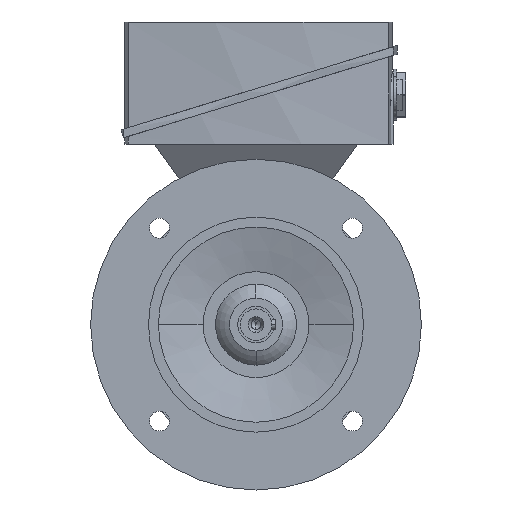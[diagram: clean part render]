
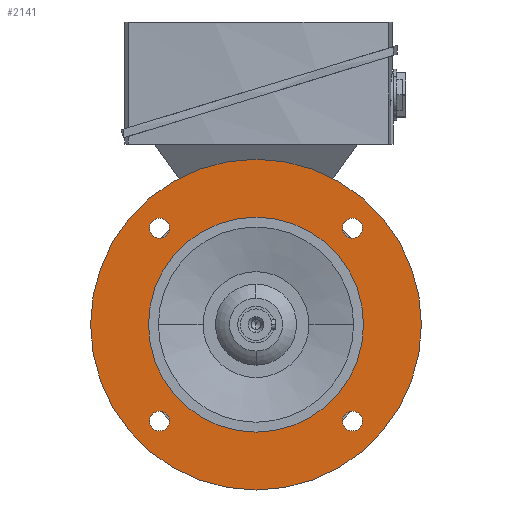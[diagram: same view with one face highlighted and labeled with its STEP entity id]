
A CAD part, left-side view. The second image highlights one B-rep face of the part: STEP entity #2141.
In plain terms, the highlighted planar face has unit normal (-1, 0, 0).
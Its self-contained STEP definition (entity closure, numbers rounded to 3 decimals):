
#2141=ADVANCED_FACE('',(#4335,#4336,#4337,#4338,#4339,#4340),#4341,.T.);
#4335=FACE_BOUND('',#6533,.T.);
#4336=FACE_BOUND('',#6534,.T.);
#4337=FACE_BOUND('',#6535,.T.);
#4338=FACE_BOUND('',#6536,.T.);
#4339=FACE_OUTER_BOUND('',#6537,.T.);
#4340=FACE_BOUND('',#6538,.T.);
#4341=PLANE('',#6539);
#6533=EDGE_LOOP('',(#13259,#13260));
#6534=EDGE_LOOP('',(#13261,#13262));
#6535=EDGE_LOOP('',(#13263,#13264));
#6536=EDGE_LOOP('',(#13265,#13266));
#6537=EDGE_LOOP('',(#13267,#13268));
#6538=EDGE_LOOP('',(#13269,#13270));
#6539=AXIS2_PLACEMENT_3D('',#13271,#13272,#13273);
#13259=ORIENTED_EDGE('',*,*,#15928,.T.);
#13260=ORIENTED_EDGE('',*,*,#13373,.T.);
#13261=ORIENTED_EDGE('',*,*,#15931,.T.);
#13262=ORIENTED_EDGE('',*,*,#13368,.T.);
#13263=ORIENTED_EDGE('',*,*,#15934,.T.);
#13264=ORIENTED_EDGE('',*,*,#13363,.T.);
#13265=ORIENTED_EDGE('',*,*,#15937,.T.);
#13266=ORIENTED_EDGE('',*,*,#13358,.T.);
#13267=ORIENTED_EDGE('',*,*,#13343,.F.);
#13268=ORIENTED_EDGE('',*,*,#15985,.F.);
#13269=ORIENTED_EDGE('',*,*,#13350,.T.);
#13270=ORIENTED_EDGE('',*,*,#15983,.T.);
#13271=CARTESIAN_POINT('',(-27.0,82.5,0.0));
#13272=DIRECTION('',(-1.0,0.0,0.0));
#13273=DIRECTION('',(0.0,-1.0,0.0));
#13343=EDGE_CURVE('',#16026,#16029,#16030,.T.);
#13350=EDGE_CURVE('',#16036,#16040,#16042,.T.);
#13358=EDGE_CURVE('',#16056,#16053,#16057,.T.);
#13363=EDGE_CURVE('',#16065,#16062,#16066,.T.);
#13368=EDGE_CURVE('',#16074,#16071,#16075,.T.);
#13373=EDGE_CURVE('',#16083,#16080,#16084,.T.);
#15928=EDGE_CURVE('',#16080,#16083,#19886,.T.);
#15931=EDGE_CURVE('',#16071,#16074,#19889,.T.);
#15934=EDGE_CURVE('',#16062,#16065,#19892,.T.);
#15937=EDGE_CURVE('',#16053,#16056,#19895,.T.);
#15983=EDGE_CURVE('',#16040,#16036,#19954,.T.);
#15985=EDGE_CURVE('',#16029,#16026,#19956,.T.);
#16026=VERTEX_POINT('',#20001);
#16029=VERTEX_POINT('',#20005);
#16030=CIRCLE('',#20006,100.0);
#16036=VERTEX_POINT('',#20013);
#16040=VERTEX_POINT('',#20018);
#16042=CIRCLE('',#20021,65.0);
#16053=VERTEX_POINT('',#20037);
#16056=VERTEX_POINT('',#20041);
#16057=CIRCLE('',#20042,6.0);
#16062=VERTEX_POINT('',#20048);
#16065=VERTEX_POINT('',#20052);
#16066=CIRCLE('',#20053,6.0);
#16071=VERTEX_POINT('',#20059);
#16074=VERTEX_POINT('',#20063);
#16075=CIRCLE('',#20064,6.0);
#16080=VERTEX_POINT('',#20070);
#16083=VERTEX_POINT('',#20074);
#16084=CIRCLE('',#20075,6.0);
#19886=CIRCLE('',#27232,6.0);
#19889=CIRCLE('',#27235,6.0);
#19892=CIRCLE('',#27238,6.0);
#19895=CIRCLE('',#27241,6.0);
#19954=CIRCLE('',#27343,65.0);
#19956=CIRCLE('',#27345,100.0);
#20001=CARTESIAN_POINT('',(-27.0,100.0,0.0));
#20005=CARTESIAN_POINT('',(-27.0,-100.0,0.));
#20006=AXIS2_PLACEMENT_3D('',#27389,#27390,#27391);
#20013=CARTESIAN_POINT('',(-27.0,65.0,0.0));
#20018=CARTESIAN_POINT('',(-27.0,-65.0,0.));
#20021=AXIS2_PLACEMENT_3D('',#27401,#27402,#27403);
#20037=CARTESIAN_POINT('',(-27.0,-62.579,62.579));
#20041=CARTESIAN_POINT('',(-27.0,-54.094,54.094));
#20042=AXIS2_PLACEMENT_3D('',#27414,#27415,#27416);
#20048=CARTESIAN_POINT('',(-27.0,62.579,62.579));
#20052=CARTESIAN_POINT('',(-27.0,54.094,54.094));
#20053=AXIS2_PLACEMENT_3D('',#27422,#27423,#27424);
#20059=CARTESIAN_POINT('',(-27.0,62.579,-62.579));
#20063=CARTESIAN_POINT('',(-27.0,54.094,-54.094));
#20064=AXIS2_PLACEMENT_3D('',#27430,#27431,#27432);
#20070=CARTESIAN_POINT('',(-27.0,-62.579,-62.579));
#20074=CARTESIAN_POINT('',(-27.0,-54.094,-54.094));
#20075=AXIS2_PLACEMENT_3D('',#27438,#27439,#27440);
#27232=AXIS2_PLACEMENT_3D('',#30154,#30155,#30156);
#27235=AXIS2_PLACEMENT_3D('',#30160,#30161,#30162);
#27238=AXIS2_PLACEMENT_3D('',#30166,#30167,#30168);
#27241=AXIS2_PLACEMENT_3D('',#30172,#30173,#30174);
#27343=AXIS2_PLACEMENT_3D('',#30211,#30212,#30213);
#27345=AXIS2_PLACEMENT_3D('',#30214,#30215,#30216);
#27389=CARTESIAN_POINT('',(-27.0,0.0,0.0));
#27390=DIRECTION('',(1.0,0.0,0.0));
#27391=DIRECTION('',(0.0,1.0,0.0));
#27401=CARTESIAN_POINT('',(-27.0,0.0,0.0));
#27402=DIRECTION('',(1.0,0.0,0.0));
#27403=DIRECTION('',(0.0,1.0,0.0));
#27414=CARTESIAN_POINT('',(-27.0,-58.336,58.336));
#27415=DIRECTION('',(1.0,0.0,-0.0));
#27416=DIRECTION('',(0.0,-0.707,0.707));
#27422=CARTESIAN_POINT('',(-27.0,58.336,58.336));
#27423=DIRECTION('',(1.0,0.0,-0.0));
#27424=DIRECTION('',(0.0,0.707,0.707));
#27430=CARTESIAN_POINT('',(-27.0,58.336,-58.336));
#27431=DIRECTION('',(1.0,-0.0,0.0));
#27432=DIRECTION('',(0.0,0.707,-0.707));
#27438=CARTESIAN_POINT('',(-27.0,-58.336,-58.336));
#27439=DIRECTION('',(1.0,0.0,0.0));
#27440=DIRECTION('',(0.0,-0.707,-0.707));
#30154=CARTESIAN_POINT('',(-27.0,-58.336,-58.336));
#30155=DIRECTION('',(1.0,0.0,0.0));
#30156=DIRECTION('',(0.0,-0.707,-0.707));
#30160=CARTESIAN_POINT('',(-27.0,58.336,-58.336));
#30161=DIRECTION('',(1.0,-0.0,0.0));
#30162=DIRECTION('',(0.0,0.707,-0.707));
#30166=CARTESIAN_POINT('',(-27.0,58.336,58.336));
#30167=DIRECTION('',(1.0,0.0,-0.0));
#30168=DIRECTION('',(0.0,0.707,0.707));
#30172=CARTESIAN_POINT('',(-27.0,-58.336,58.336));
#30173=DIRECTION('',(1.0,0.0,-0.0));
#30174=DIRECTION('',(0.0,-0.707,0.707));
#30211=CARTESIAN_POINT('',(-27.0,0.0,0.0));
#30212=DIRECTION('',(1.0,0.0,0.0));
#30213=DIRECTION('',(0.0,1.0,0.0));
#30214=CARTESIAN_POINT('',(-27.0,0.0,0.0));
#30215=DIRECTION('',(1.0,0.0,0.0));
#30216=DIRECTION('',(0.0,1.0,0.0));
